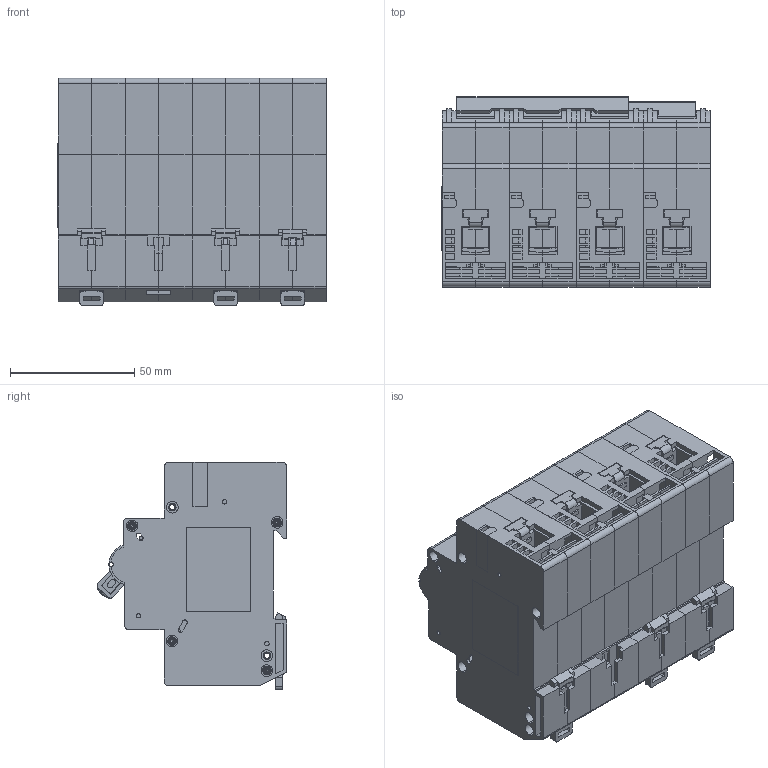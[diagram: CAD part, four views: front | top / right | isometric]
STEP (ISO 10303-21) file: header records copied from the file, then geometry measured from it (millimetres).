
FILE_DESCRIPTION (( 'STEP AP214' ), '1' );
FILE_NAME ('OptiDin BM125 3X-ÍÐ230.STEP', '2023-04-17T13:53:15', ( '' ), ( '' ), 'SwSTEP 2.0', 'SolidWorks 2018', '' );
FILE_SCHEMA (( 'AUTOMOTIVE_DESIGN' ));
Length unit declared in the file: millimetre
Products named in the file (27): Çàù¸ëêà ÃÆÈÊ.741358.040; _____ _______ ____.000000.000.STEP; _________ ____.000000.000.STEP; _______ ____.000000.000-0.STEP; ______ ___________ ____.711121.004.STEP; ___________ ______________ OptiDin BM125 1X ____.641463.001-1.STEP; ________ ____.000000.000____ ______.STEP; _______ ____.000000.000.STEP; _______ ____.000000.000-1.STEP; ________ ____.758331.008_4-_.STEP; OptiDin BM125 3X-迖230.STEP; _____ ____.000000.000.STEP; ___________ ______________ OptiDin BM125 __ ____.641463.000.STEP; ____ ____.000000.000.STEP; ________ _____ ____.000000.000.STEP; _____ ____.715311.079.STEP; ___________ ______________ OptiDin BM125 3X ____.641483.001.STEP; ________ ______ ____.000000.000.STEP; _______ ____.000000.002.STEP; _____ ______ ____.000000.000.STEP; ___________ ______________ OptiDin BM125 1X ____.641463.001.STEP; _________ ____.000000.002.STEP; _____ ____.746442.007_3-_.STEP; _____ ____.000000.002.STEP; ________ ____.754312.171.STEP; OptiDin BM125 3X-迖230; _________ ____.000000.001.STEP
Assembly tree (88 placements, depth 6):
  OptiDin BM125 3X-迖230
    OptiDin BM125 3X-迖230.STEP
      ___________ ______________ OptiDin BM125 3X ____.641483.001.STEP
        _________ ____.000000.000.STEP
          _________ ____.000000.002.STEP
          _________ ____.000000.001.STEP
        ___________ ______________ OptiDin BM125 1X ____.641463.001.STEP
          _________ ____.000000.000.STEP
            _________ ____.000000.002.STEP
            _________ ____.000000.001.STEP
          ________ _____ ____.000000.000.STEP
          ________ ______ ____.000000.000.STEP
          _______ ____.000000.002.STEP
          _____ ______ ____.000000.000.STEP
          _____ _______ ____.000000.000.STEP
          ____ ____.000000.000.STEP  x2
          _______ ____.000000.000.STEP  x2
          _____ ____.000000.000.STEP
          _______ ____.000000.000-0.STEP
          _______ ____.000000.000-1.STEP
          ________ ____.000000.000____ ______.STEP  x4
          ________ ____.754312.171.STEP
        ___________ ______________ OptiDin BM125 1X ____.641463.001-1.STEP
          _________ ____.000000.000.STEP
            _________ ____.000000.002.STEP
            _________ ____.000000.001.STEP
          ________ _____ ____.000000.000.STEP
          ________ ______ ____.000000.000.STEP
          _______ ____.000000.002.STEP
          _____ ______ ____.000000.000.STEP
          _____ _______ ____.000000.000.STEP
          ____ ____.000000.000.STEP  x2
          _______ ____.000000.000.STEP  x2
          _____ ____.000000.000.STEP
          _______ ____.000000.000-0.STEP
          _______ ____.000000.000-1.STEP
          ________ ____.000000.000____ ______.STEP  x4
        ________ _____ ____.000000.000.STEP
        ________ ______ ____.000000.000.STEP
        _______ ____.000000.002.STEP
        _____ ______ ____.000000.000.STEP
        _____ _______ ____.000000.000.STEP
        ____ ____.000000.000.STEP  x2
        _______ ____.000000.000.STEP  x2
        _____ ____.000000.000.STEP
        _______ ____.000000.000-0.STEP
        ________ ____.000000.000____ ______.STEP  x4
        _____ ____.746442.007_3-_.STEP
        ______ ___________ ____.711121.004.STEP  x4
        ________ ____.754312.171.STEP
        _____ ____.715311.079.STEP  x2
      ___________ ______________ OptiDin BM125 __ ____.641463.000.STEP
        _________ ____.000000.000.STEP
          _________ ____.000000.002.STEP
          _________ ____.000000.001.STEP
        ________ _____ ____.000000.000.STEP
        ________ ______ ____.000000.000.STEP
        _______ ____.000000.002.STEP
        _____ ______ ____.000000.000.STEP
        _____ _______ ____.000000.000.STEP
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Bounding box: 108.1 x 76.52 x 91.6 mm (x, y, z)
Volume: 220105.9 mm3; surface area: 269891.6 mm2
Topology: 85 solids, 86 shells, 5932 faces, 15723 edges, 10094 vertices
Faces by surface type: plane 4083, cylinder 1549, torus 240, cone 60
Entity records: 51938 total; most frequent: CARTESIAN_POINT 9100, DIRECTION 8490, ORIENTED_EDGE 8488, EDGE_CURVE 4244, LINE 3146, VECTOR 3146, VERTEX_POINT 2756, AXIS2_PLACEMENT_3D 2672
